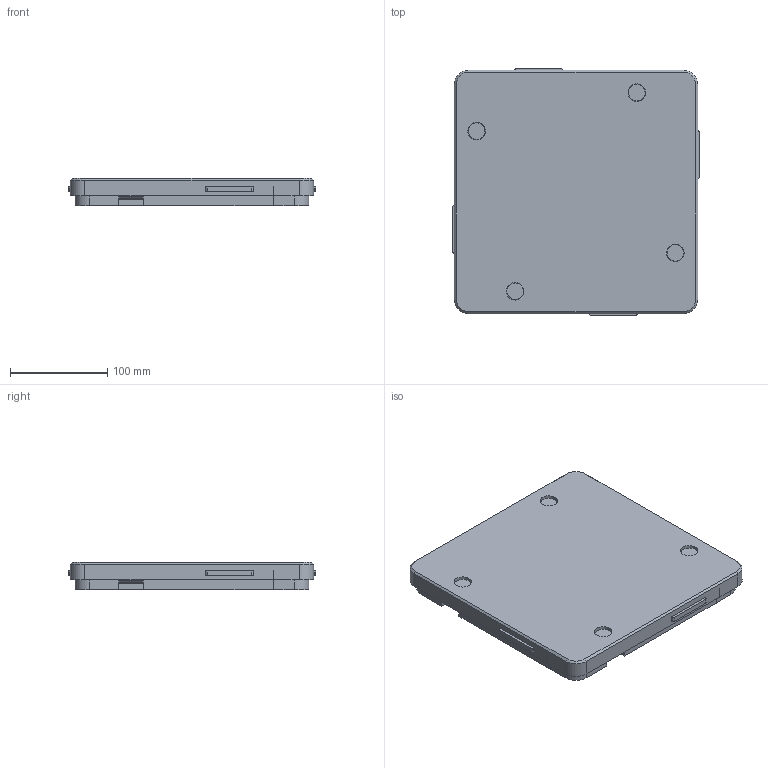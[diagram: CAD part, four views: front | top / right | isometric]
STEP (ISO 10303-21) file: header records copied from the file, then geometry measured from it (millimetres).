
FILE_DESCRIPTION(/* description */ (''),/* implementation_level */ '2;1');
FILE_NAME(/* name */ 'C:\Marketing\01_Versamove-SPU_STEP-Dateien-Homepage\VersamoveStandard\B240\STEP-Dateien\Werkstückträger_WT4045_240x240.stp',/* time_stamp */ '2016-12-15T10:58:24+01:00',/* author */ ('herbert.engels'),/* organization */ (''),/* preprocessor_version */ 'ST-DEVELOPER v15.6',/* originating_system */ 'Autodesk Inventor 2015',/* authorisation */ '');
FILE_SCHEMA (('CONFIG_CONTROL_DESIGN'));
Length unit declared in the file: millimetre
Products named in the file (1): Werkstückträger_WT4045_240x240
Bounding box: 254 x 254 x 28 mm (x, y, z)
Volume: 1044854.7 mm3; surface area: 217803.5 mm2
Topology: 1 solids, 1 shells, 274 faces, 744 edges, 488 vertices
Faces by surface type: plane 202, cylinder 64, cone 8
Full cylindrical faces by diameter (mm): 4.5 x4, 9 x4, 18 x4, 22 x4, 23 x4, 27 x4, 28 x4
Entity records: 8715 total; most frequent: CARTESIAN_POINT 1443, DIRECTION 1402, ORIENTED_EDGE 1392, EDGE_CURVE 696, LINE 540, VECTOR 540, VERTEX_POINT 472, AXIS2_PLACEMENT_3D 431
